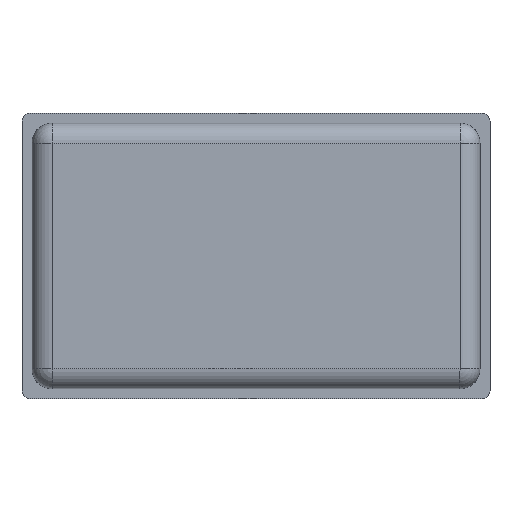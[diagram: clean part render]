
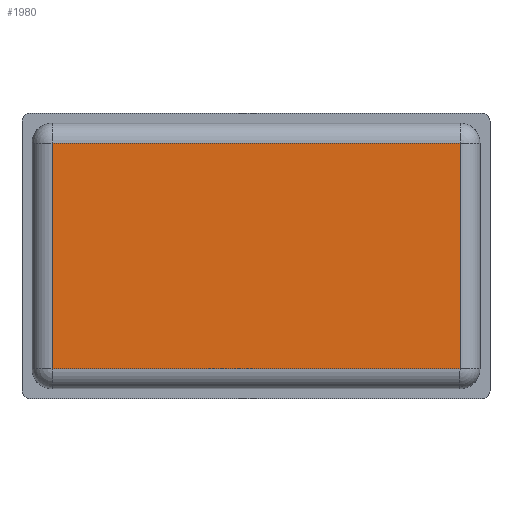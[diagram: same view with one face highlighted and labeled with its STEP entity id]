
A CAD part, front view. The second image highlights one B-rep face of the part: STEP entity #1980.
In plain terms, the highlighted planar face has unit normal (0, -1, 0).
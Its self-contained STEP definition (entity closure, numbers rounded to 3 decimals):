
#32 = CARTESIAN_POINT ( 'NONE',  ( 25.5, -17.6, 14.1 ) ) ;
#120 = PLANE ( 'NONE',  #2682 ) ;
#136 = CARTESIAN_POINT ( 'NONE',  ( 0., -17.6, 0. ) ) ;
#205 = CARTESIAN_POINT ( 'NONE',  ( 25.5, -17.6, 14.1 ) ) ;
#212 = DIRECTION ( 'NONE',  ( 0., 0., 1. ) ) ;
#277 = VERTEX_POINT ( 'NONE', #3193 ) ;
#405 = LINE ( 'NONE', #593, #450 ) ;
#450 = VECTOR ( 'NONE', #581, 1000. ) ;
#581 = DIRECTION ( 'NONE',  ( -1., 0., 0. ) ) ;
#593 = CARTESIAN_POINT ( 'NONE',  ( -25.5, -17.6, 14.1 ) ) ;
#602 = DIRECTION ( 'NONE',  ( 0., 0., 1. ) ) ;
#673 = EDGE_LOOP ( 'NONE', ( #3417, #3514, #3122, #2402 ) ) ;
#927 = CARTESIAN_POINT ( 'NONE',  ( -25.5, -17.6, -14.1 ) ) ;
#1082 = DIRECTION ( 'NONE',  ( 1., 0., 0. ) ) ;
#1107 = EDGE_CURVE ( 'NONE', #1699, #277, #405, .T. ) ;
#1577 = DIRECTION ( 'NONE',  ( 0., 1., 0. ) ) ;
#1699 = VERTEX_POINT ( 'NONE', #32 ) ;
#1859 = VECTOR ( 'NONE', #3686, 1000. ) ;
#1866 = LINE ( 'NONE', #3678, #1859 ) ;
#1967 = VECTOR ( 'NONE', #1082, 1000. ) ;
#1980 = ADVANCED_FACE ( 'NONE', ( #2808 ), #120, .F. ) ;
#2010 = LINE ( 'NONE', #3785, #1967 ) ;
#2238 = VERTEX_POINT ( 'NONE', #927 ) ;
#2260 = VECTOR ( 'NONE', #212, 1000. ) ;
#2287 = VERTEX_POINT ( 'NONE', #2966 ) ;
#2344 = LINE ( 'NONE', #205, #2260 ) ;
#2402 = ORIENTED_EDGE ( 'NONE', *, *, #3388, .T. ) ;
#2682 = AXIS2_PLACEMENT_3D ( 'NONE', #136, #1577, #602 ) ;
#2808 = FACE_OUTER_BOUND ( 'NONE', #673, .T. ) ;
#2966 = CARTESIAN_POINT ( 'NONE',  ( 25.5, -17.6, -14.1 ) ) ;
#3122 = ORIENTED_EDGE ( 'NONE', *, *, #1107, .T. ) ;
#3193 = CARTESIAN_POINT ( 'NONE',  ( -25.5, -17.6, 14.1 ) ) ;
#3278 = EDGE_CURVE ( 'NONE', #2287, #1699, #2344, .T. ) ;
#3345 = EDGE_CURVE ( 'NONE', #2238, #2287, #2010, .T. ) ;
#3388 = EDGE_CURVE ( 'NONE', #277, #2238, #1866, .T. ) ;
#3417 = ORIENTED_EDGE ( 'NONE', *, *, #3345, .T. ) ;
#3514 = ORIENTED_EDGE ( 'NONE', *, *, #3278, .T. ) ;
#3678 = CARTESIAN_POINT ( 'NONE',  ( -25.5, -17.6, -14.1 ) ) ;
#3686 = DIRECTION ( 'NONE',  ( 0., 0., -1. ) ) ;
#3785 = CARTESIAN_POINT ( 'NONE',  ( 25.5, -17.6, -14.1 ) ) ;
